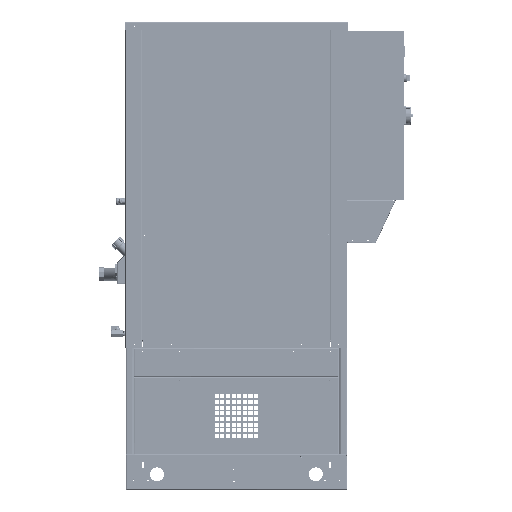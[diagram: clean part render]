
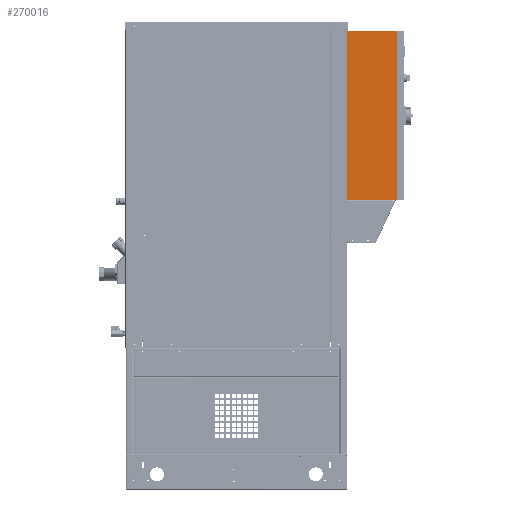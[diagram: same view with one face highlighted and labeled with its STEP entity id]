
A CAD part, top view. The second image highlights one B-rep face of the part: STEP entity #270016.
In plain terms, the highlighted planar face has unit normal (0, 0, 1) as drawn and (-1, 0, 0) by its records, which use the part's own axes.
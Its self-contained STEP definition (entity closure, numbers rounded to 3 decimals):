
#841 = CARTESIAN_POINT ( 'NONE',  ( -200., 300., 87.5 ) ) ;
#53616 = VECTOR ( 'NONE', #221414, 1000. ) ;
#58925 = DIRECTION ( 'NONE',  ( 0., 0., -1. ) ) ;
#61879 = CARTESIAN_POINT ( 'NONE',  ( -200., -300., 87.5 ) ) ;
#64484 = CARTESIAN_POINT ( 'NONE',  ( -200., 300., -87.5 ) ) ;
#64745 = ORIENTED_EDGE ( 'NONE', *, *, #83994, .F. ) ;
#83994 = EDGE_CURVE ( 'NONE', #267567, #85385, #304882, .T. ) ;
#85385 = VERTEX_POINT ( 'NONE', #61879 ) ;
#85524 = LINE ( 'NONE', #139840, #189797 ) ;
#94046 = LINE ( 'NONE', #64484, #119458 ) ;
#111862 = DIRECTION ( 'NONE',  ( 0., 0., 1. ) ) ;
#114740 = AXIS2_PLACEMENT_3D ( 'NONE', #207247, #182561, #58925 ) ;
#117047 = CARTESIAN_POINT ( 'NONE',  ( -200., -300., -87.5 ) ) ;
#119458 = VECTOR ( 'NONE', #316511, 1000. ) ;
#139750 = EDGE_CURVE ( 'NONE', #206061, #85385, #85524, .T. ) ;
#139840 = CARTESIAN_POINT ( 'NONE',  ( -200., -300., 87.5 ) ) ;
#144790 = EDGE_LOOP ( 'NONE', ( #186357, #64745, #230626, #145865 ) ) ;
#145865 = ORIENTED_EDGE ( 'NONE', *, *, #158307, .T. ) ;
#148927 = VERTEX_POINT ( 'NONE', #230025 ) ;
#152471 = DIRECTION ( 'NONE',  ( 0., 0., 1. ) ) ;
#154598 = FACE_OUTER_BOUND ( 'NONE', #144790, .T. ) ;
#158307 = EDGE_CURVE ( 'NONE', #148927, #206061, #94046, .T. ) ;
#182561 = DIRECTION ( 'NONE',  ( 1., 0., 0. ) ) ;
#185814 = PLANE ( 'NONE',  #114740 ) ;
#186357 = ORIENTED_EDGE ( 'NONE', *, *, #139750, .T. ) ;
#189797 = VECTOR ( 'NONE', #111862, 1000. ) ;
#195113 = CARTESIAN_POINT ( 'NONE',  ( -200., 300., 87.5 ) ) ;
#200515 = CARTESIAN_POINT ( 'NONE',  ( -200., 300., 87.5 ) ) ;
#206061 = VERTEX_POINT ( 'NONE', #117047 ) ;
#206816 = VECTOR ( 'NONE', #152471, 1000. ) ;
#207247 = CARTESIAN_POINT ( 'NONE',  ( -200., 300., 87.5 ) ) ;
#221414 = DIRECTION ( 'NONE',  ( 0., -1., 0. ) ) ;
#226471 = EDGE_CURVE ( 'NONE', #148927, #267567, #276041, .T. ) ;
#230025 = CARTESIAN_POINT ( 'NONE',  ( -200., 300., -87.5 ) ) ;
#230626 = ORIENTED_EDGE ( 'NONE', *, *, #226471, .F. ) ;
#267567 = VERTEX_POINT ( 'NONE', #200515 ) ;
#270016 = ADVANCED_FACE ( 'NONE', ( #154598 ), #185814, .F. ) ;
#276041 = LINE ( 'NONE', #841, #206816 ) ;
#304882 = LINE ( 'NONE', #195113, #53616 ) ;
#316511 = DIRECTION ( 'NONE',  ( 0., -1., 0. ) ) ;
